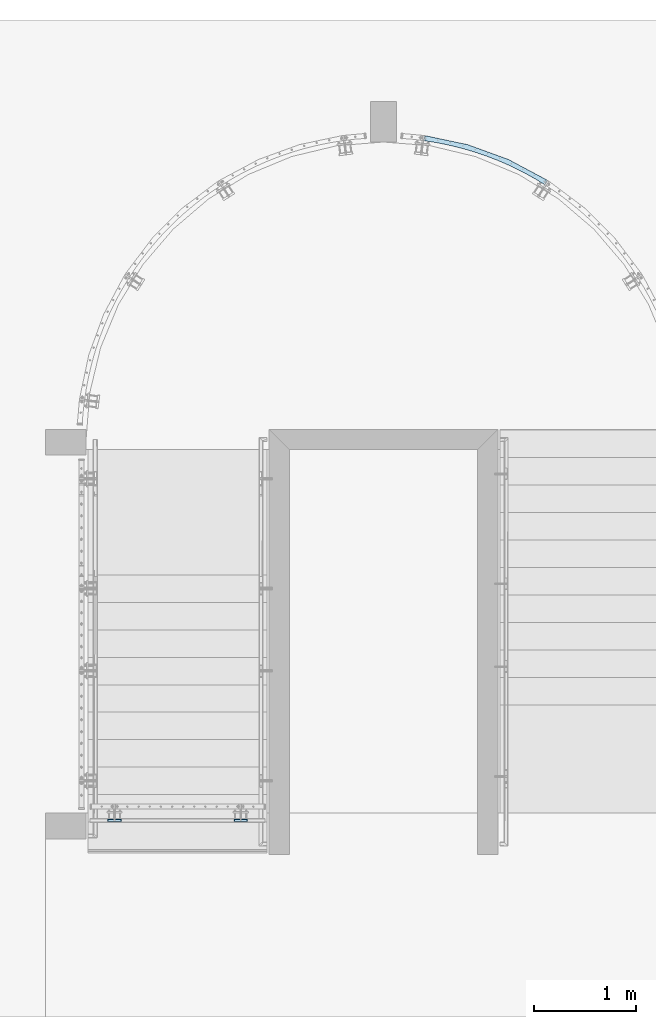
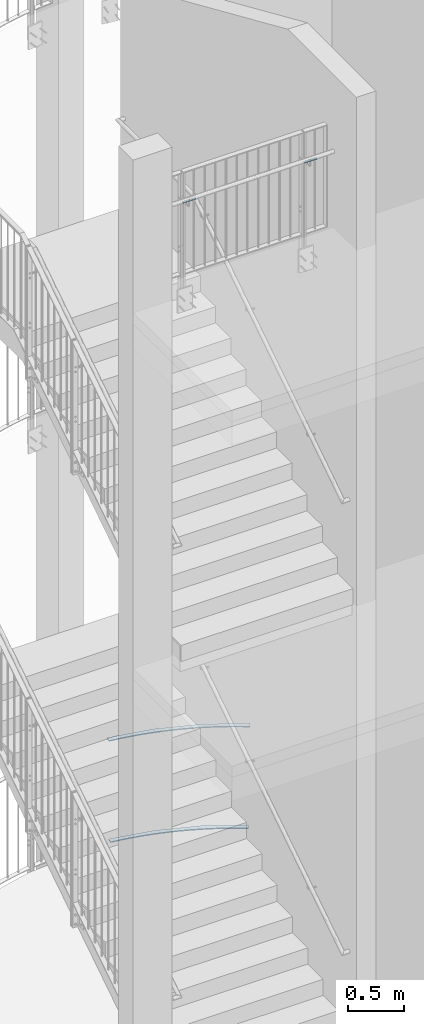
# One storey, part 107 of 296: 4 plates, 6 openings.
"""IFC2X3 building model written with IfcOpenShell, lengths in millimetres."""

from ifc_helpers import new_model, entity, si_unit, converted_unit, point, frame, frame_2d, origin, origin_with_axes, origin_2d_with_axis, place, context, project, spatial, polyline, circle_curve, line_curve, trimmed, segment, composite_curve, circle, outline, extrude, material, layer, layer_set, element, save


model = new_model("IFC2X3")

# Units and contexts
model_context = context("Model", 3, precision=1e-09, world=origin_with_axes())
ifc_project = project(units=[si_unit("LENGTHUNIT", "METRE", prefix="MILLI"), si_unit("AREAUNIT", "SQUARE_METRE"), si_unit("VOLUMEUNIT", "CUBIC_METRE"), converted_unit("PLANEANGLEUNIT", "DEGREE", entity("IfcPlaneAngleMeasure", 0.01745329), si_unit("PLANEANGLEUNIT", "RADIAN"), dimensions=[0, 0, 0, 0, 0, 0, 0])], contexts=[model_context])

# Site, building, storey
site_placement = place(None, origin_with_axes())
site = spatial("IfcSite", under=ifc_project, at=site_placement, Name="TZD-S?d | Treppenhausgel?nder", CompositionType="ELEMENT")
building_placement = place(site_placement, origin_with_axes())
building = spatial("IfcBuilding", under=site, at=building_placement, Name="Struktur 1", CompositionType="ELEMENT")
storey_placement = place(building_placement, origin_with_axes())
storey = spatial("IfcBuildingStorey", under=building, at=storey_placement, Name="Default Storey", CompositionType="ELEMENT", Elevation=0.0)

# Plate, opening
ifc_material = material(Name="S235JR")
ifc_layer = layer(ifc_material, 10.0)
ifc_layer_set = layer_set([ifc_layer], Name="S235JR")
plate_1_placement = place(None, frame((1520.001414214, -3845.001, 14510.0), z_axis=(0.0, 0.0, -1.0), x_axis=(1.0, 0.0, 0.0)))
plate_1 = element("IfcPlate", 1, at=plate_1_placement, inside=storey, material=ifc_layer_set, Name="Girder", ObjectType="Girder", context=model_context, shape_type="SweptSolid", body=[
    extrude(outline(polyline([(-65.0, -10.0), (65.0, -10.0), (65.0, 10.0), (-65.0, 10.0), (-65.0, -10.0)])), origin_with_axes(), (0.0, 0.0, -1.0), 10.0),
])
opening_1_placement = place(plate_1_placement, frame((-5.12e-07, -1.26e-06, 0.5), z_axis=(0.0, 0.0, -1.0), x_axis=(1.0, 0.0, 0.0)))
element("IfcOpeningElement", 2, at=opening_1_placement, cuts=plate_1, ObjectType="Opening", context=model_context, shape_type="SweptSolid", body=[
    extrude(circle(Radius=5.001, at=origin_2d_with_axis()), origin(), (0.0, 0.0, 1.0), 11.0),
])

plate_2_placement = place(None, frame((279.999999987, -3845.001, 14510.0), z_axis=(0.0, 0.0, 1.0), x_axis=(-1.0, 0.0, 0.0)))
plate_2 = element("IfcPlate", 3, at=plate_2_placement, inside=storey, material=ifc_layer_set, Name="Girder", ObjectType="Girder", context=model_context, shape_type="SweptSolid", body=[
    extrude(outline(polyline([(-65.0, -10.0), (65.0, -10.0), (65.0, 10.0), (-65.0, 10.0), (-65.0, -10.0)])), origin_with_axes(), (0.0, 0.0, 1.0), 10.0),
])
opening_2_placement = place(plate_2_placement, frame((-9e-09, 1.25e-07, -0.5), z_axis=(0.0, 0.0, 1.0), x_axis=(-1.0, 0.0, 0.0)))
element("IfcOpeningElement", 4, at=opening_2_placement, cuts=plate_2, ObjectType="Opening", context=model_context, shape_type="SweptSolid", body=[
    extrude(circle(Radius=5.001, at=origin_2d_with_axis()), origin(), (0.0, 0.0, 1.0), 11.0),
])

# Plate, openings
plate_3_placement = place(None, frame((3334.306526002, 2836.612532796, 2450.0), z_axis=(0.0, 0.0, 1.0), x_axis=(0.990425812, -0.138046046, 0.0)))
plate_3 = element("IfcPlate", 5, at=plate_3_placement, inside=storey, material=ifc_layer_set, Name="-", ObjectType="-", context=model_context, shape_type="SweptSolid", body=[
    extrude(outline(polyline([(0.0, 0.0), (0.0, -2965.0), (1212.136152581, -259.089626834), (1232.923168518, -213.613901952), (644.462458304, 50.0811294), (-0.379437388, 49.999976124), (0.0, 0.0)])), origin_with_axes(), (0.0, 0.0, -1.0), 10.0),
])
opening_3_placement = place(plate_3_placement, frame((0.0, -2965.0, 0.01), z_axis=(0.0, 0.0, 1.0), x_axis=(0.408814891, 0.912617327, 0.0)))
element("IfcOpeningElement", 6, at=opening_3_placement, cuts=plate_3, ObjectType="Opening", context=model_context, shape_type="SweptSolid", body=[
    extrude(outline(composite_curve([segment(trimmed(line_curve((0.0, 0.0), (1.0, 0.0), 2965.0), [point((0.0, 0.0))], [point((2965.0, 0.0))], True, "CARTESIAN"), True, "CONTINUOUS"), segment(trimmed(circle_curve(origin_2d_with_axis(), 2965.0), [point((2965.0, 0.0))], [point((2705.910373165, 1212.136152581))], True, "CARTESIAN"), True, "CONTINUOUS"), segment(trimmed(line_curve((2705.910373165, 1212.136152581), (-0.912617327, -0.408814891), 2965.0), [point((2705.910373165, 1212.136152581))], [point((0.0, 0.0))], True, "CARTESIAN"), True, "CONTINUOUS")], self_intersect=False)), origin(), (0.0, 0.0, -1.0), 10.02),
])
opening_4_placement = place(plate_3_placement, frame((644.462458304, 50.0811294, 0.01), z_axis=(0.0, 0.0, 1.0), x_axis=(-0.999999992, -0.00012585, 0.0)))
element("IfcOpeningElement", 7, at=opening_4_placement, cuts=plate_3, ObjectType="Opening", context=model_context, shape_type="SweptSolid", body=[
    extrude(outline(composite_curve([segment(trimmed(line_curve((0.0, 0.0), (1.0, 0.0), 644.841900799), [point((0.0, 0.0))], [point((644.841900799, 0.0))], True, "CARTESIAN"), True, "CONTINUOUS"), segment(trimmed(circle_curve(frame_2d((644.841900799, 3015.0), x_axis=(-1.0, 0.0)), 3015.0), [point((644.841900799, 0.0))], [point((-588.427519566, 263.769086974))], False, "CARTESIAN"), True, "CONTINUOUS"), segment(trimmed(line_curve((-588.427519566, 263.769086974), (0.912514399, -0.409044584), 644.841900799), [point((-588.427519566, 263.769086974))], [point((0.0, 0.0))], True, "CARTESIAN"), True, "CONTINUOUS")], self_intersect=False)), origin(), (0.0, 0.0, -1.0), 10.02),
])

plate_4_placement = place(None, frame((3319.444758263, 2838.645663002, 3540.0), z_axis=(0.0, 0.0, -1.0), x_axis=(0.130526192, 0.991444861, 0.0)))
plate_4 = element("IfcPlate", 8, at=plate_4_placement, inside=storey, material=ifc_layer_set, Name="Girder", ObjectType="Girder", context=model_context, shape_type="SweptSolid", body=[
    extrude(outline(polyline([(0.0, 0.0), (50.000157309, 0.0), (48.357010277, 660.543062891), (-229.311353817, 1259.892808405), (-274.626885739, 1238.761828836), (-2964.990514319, -7.5), (0.0, 0.0)])), origin_with_axes(), (0.0, 0.0, -1.0), 10.0),
])
opening_5_placement = place(plate_4_placement, frame((48.357010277, 660.543062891, 0.01), z_axis=(0.0, 0.0, 1.0), x_axis=(-0.420362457, 0.907356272, 0.0)))
element("IfcOpeningElement", 9, at=opening_5_placement, cuts=plate_4, ObjectType="Opening", context=model_context, shape_type="SweptSolid", body=[
    extrude(outline(composite_curve([segment(trimmed(line_curve((0.0, 0.0), (1.0, 0.0), 660.54510661), [point((0.0, 0.0))], [point((660.54510661, 0.0))], True, "CARTESIAN"), True, "CONTINUOUS"), segment(trimmed(circle_curve(frame_2d((660.54510661, 3015.0), x_axis=(-1.0, 0.0)), 3015.0), [point((660.54510661, 0.0))], [point((-600.038608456, 276.176585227))], False, "CARTESIAN"), True, "CONTINUOUS"), segment(trimmed(line_curve((-600.038608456, 276.176585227), (0.908399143, -0.418104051), 660.54510661), [point((-600.038608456, 276.176585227))], [point((0.0, 0.0))], True, "CARTESIAN"), True, "CONTINUOUS")], self_intersect=False)), origin(), (0.0, 0.0, -1.0), 10.02),
])
opening_6_placement = place(plate_4_placement, frame((-2964.990514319, -7.5, 0.01), z_axis=(0.0, 0.0, 1.0), x_axis=(0.999996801, 0.002529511, 0.0)))
element("IfcOpeningElement", 10, at=opening_6_placement, cuts=plate_4, ObjectType="Opening", context=model_context, shape_type="SweptSolid", body=[
    extrude(outline(composite_curve([segment(trimmed(line_curve((0.0, 0.0), (1.0, 0.0), 2965.0), [point((0.0, 0.0))], [point((2965.0, 0.0))], True, "CARTESIAN"), True, "CONTINUOUS"), segment(trimmed(circle_curve(origin_2d_with_axis(), 2965.0), [point((2965.0, 0.0))], [point((2693.507454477, 1239.452537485))], True, "CARTESIAN"), True, "CONTINUOUS"), segment(trimmed(line_curve((2693.507454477, 1239.452537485), (-0.908434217, -0.418027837), 2965.0), [point((2693.507454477, 1239.452537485))], [point((0.0, 0.0))], True, "CARTESIAN"), True, "CONTINUOUS")], self_intersect=False)), origin(), (0.0, 0.0, -1.0), 10.02),
])

save(model, "model.ifc")
